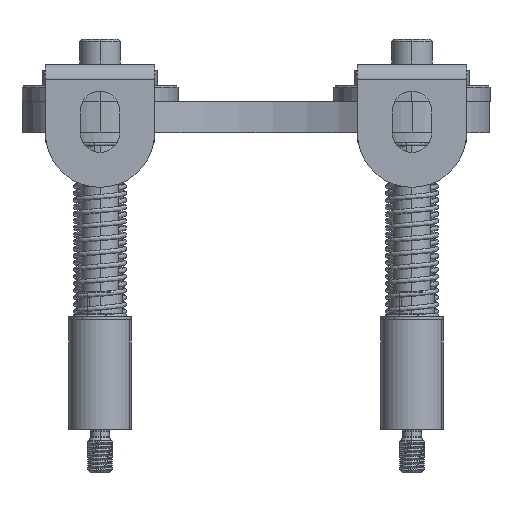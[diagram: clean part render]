
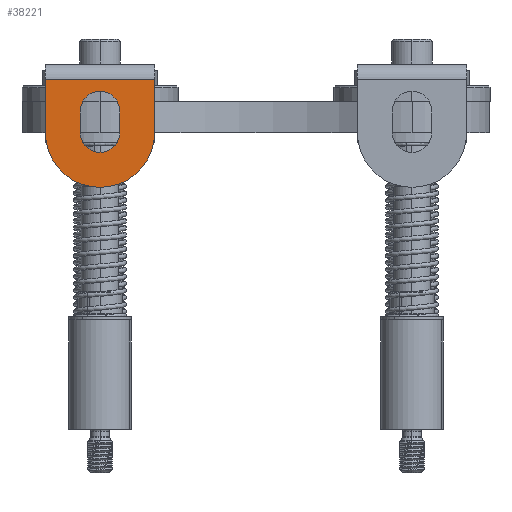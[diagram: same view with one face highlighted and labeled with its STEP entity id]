
A CAD part, left-side view. The second image highlights one B-rep face of the part: STEP entity #38221.
In plain terms, the highlighted planar face has unit normal (-1, 0, 0).
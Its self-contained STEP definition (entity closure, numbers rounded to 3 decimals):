
#1023 = EDGE_CURVE ( 'NONE', #39801, #3194, #34662, .T. ) ;
#1993 = CARTESIAN_POINT ( 'NONE',  ( -201.5, 50., 13.3 ) ) ;
#2133 = VERTEX_POINT ( 'NONE', #2541 ) ;
#2541 = CARTESIAN_POINT ( 'NONE',  ( -201.5, 32.5, 0. ) ) ;
#2630 = VECTOR ( 'NONE', #20570, 1000. ) ;
#2821 = DIRECTION ( 'NONE',  ( -1., 0., 0. ) ) ;
#2845 = AXIS2_PLACEMENT_3D ( 'NONE', #17988, #46175, #6148 ) ;
#3092 = EDGE_CURVE ( 'NONE', #22000, #23403, #44008, .T. ) ;
#3194 = VERTEX_POINT ( 'NONE', #35817 ) ;
#3457 = DIRECTION ( 'NONE',  ( 0., 0., 1. ) ) ;
#4376 = VECTOR ( 'NONE', #12177, 1000. ) ;
#4463 = EDGE_CURVE ( 'NONE', #3194, #8008, #31381, .T. ) ;
#4534 = VECTOR ( 'NONE', #38432, 1000. ) ;
#4985 = LINE ( 'NONE', #48673, #4376 ) ;
#5317 = VECTOR ( 'NONE', #22333, 1000. ) ;
#5601 = DIRECTION ( 'NONE',  ( -1., 0., 0. ) ) ;
#5657 = CARTESIAN_POINT ( 'NONE',  ( -201.5, 43.7, 7. ) ) ;
#6148 = DIRECTION ( 'NONE',  ( 0., 0., 1. ) ) ;
#6353 = ORIENTED_EDGE ( 'NONE', *, *, #35488, .F. ) ;
#6384 = AXIS2_PLACEMENT_3D ( 'NONE', #29783, #5601, #21508 ) ;
#6411 = FACE_BOUND ( 'NONE', #37660, .T. ) ;
#6812 = CARTESIAN_POINT ( 'NONE',  ( -201.5, 56.3, 7. ) ) ;
#8008 = VERTEX_POINT ( 'NONE', #16352 ) ;
#8292 = VERTEX_POINT ( 'NONE', #37650 ) ;
#8668 = EDGE_LOOP ( 'NONE', ( #15537, #40525, #16844, #42687, #38266 ) ) ;
#9653 = PLANE ( 'NONE',  #6384 ) ;
#10381 = CARTESIAN_POINT ( 'NONE',  ( -201.5, 50., 7. ) ) ;
#10797 = DIRECTION ( 'NONE',  ( 0., 0., 1. ) ) ;
#12177 = DIRECTION ( 'NONE',  ( 0., 1., 0. ) ) ;
#13190 = VECTOR ( 'NONE', #26754, 1000. ) ;
#15218 = AXIS2_PLACEMENT_3D ( 'NONE', #30726, #2821, #10797 ) ;
#15537 = ORIENTED_EDGE ( 'NONE', *, *, #35790, .T. ) ;
#16352 = CARTESIAN_POINT ( 'NONE',  ( -201.5, 43.7, 0. ) ) ;
#16466 = EDGE_CURVE ( 'NONE', #23403, #2133, #38520, .T. ) ;
#16576 = LINE ( 'NONE', #52157, #2630 ) ;
#16844 = ORIENTED_EDGE ( 'NONE', *, *, #47890, .T. ) ;
#17988 = CARTESIAN_POINT ( 'NONE',  ( -201.5, 50., 7. ) ) ;
#18653 = AXIS2_PLACEMENT_3D ( 'NONE', #28164, #44033, #3457 ) ;
#19256 = LINE ( 'NONE', #29392, #5317 ) ;
#19378 = CARTESIAN_POINT ( 'NONE',  ( -201.5, 50., 0. ) ) ;
#20570 = DIRECTION ( 'NONE',  ( 0., 0., 1. ) ) ;
#20984 = LINE ( 'NONE', #5657, #4534 ) ;
#21508 = DIRECTION ( 'NONE',  ( 0., 0., 1. ) ) ;
#22000 = VERTEX_POINT ( 'NONE', #48871 ) ;
#22333 = DIRECTION ( 'NONE',  ( 0., 0., -1. ) ) ;
#22580 = DIRECTION ( 'NONE',  ( -1., 0., 0. ) ) ;
#23403 = VERTEX_POINT ( 'NONE', #26399 ) ;
#25419 = ORIENTED_EDGE ( 'NONE', *, *, #30532, .F. ) ;
#26399 = CARTESIAN_POINT ( 'NONE',  ( -201.5, 50., -17.5 ) ) ;
#26754 = DIRECTION ( 'NONE',  ( 0., 0., -1. ) ) ;
#27478 = DIRECTION ( 'NONE',  ( 0., 0., 1. ) ) ;
#28164 = CARTESIAN_POINT ( 'NONE',  ( -201.5, 50., 0. ) ) ;
#28808 = CARTESIAN_POINT ( 'NONE',  ( -201.5, 67.5, 17. ) ) ;
#29392 = CARTESIAN_POINT ( 'NONE',  ( -201.5, 67.5, 0. ) ) ;
#29783 = CARTESIAN_POINT ( 'NONE',  ( -201.5, 50., 0. ) ) ;
#29920 = AXIS2_PLACEMENT_3D ( 'NONE', #10381, #22580, #47600 ) ;
#30532 = EDGE_CURVE ( 'NONE', #8008, #8292, #20984, .T. ) ;
#30726 = CARTESIAN_POINT ( 'NONE',  ( -201.5, 50., 0. ) ) ;
#31150 = ORIENTED_EDGE ( 'NONE', *, *, #1023, .F. ) ;
#31381 = CIRCLE ( 'NONE', #18653, 6.3 ) ;
#34662 = LINE ( 'NONE', #6812, #13190 ) ;
#35463 = VERTEX_POINT ( 'NONE', #45823 ) ;
#35488 = EDGE_CURVE ( 'NONE', #47962, #39801, #49427, .T. ) ;
#35790 = EDGE_CURVE ( 'NONE', #2133, #35463, #16576, .T. ) ;
#35817 = CARTESIAN_POINT ( 'NONE',  ( -201.5, 56.3, 0. ) ) ;
#35940 = EDGE_CURVE ( 'NONE', #8292, #47962, #46225, .T. ) ;
#37386 = AXIS2_PLACEMENT_3D ( 'NONE', #19378, #47577, #27478 ) ;
#37650 = CARTESIAN_POINT ( 'NONE',  ( -201.5, 43.7, 7. ) ) ;
#37660 = EDGE_LOOP ( 'NONE', ( #44138, #25419, #40766, #31150, #6353 ) ) ;
#38221 = ADVANCED_FACE ( 'NONE', ( #6411, #47409 ), #9653, .T. ) ;
#38266 = ORIENTED_EDGE ( 'NONE', *, *, #16466, .T. ) ;
#38432 = DIRECTION ( 'NONE',  ( 0., 0., 1. ) ) ;
#38520 = CIRCLE ( 'NONE', #37386, 17.5 ) ;
#39801 = VERTEX_POINT ( 'NONE', #47654 ) ;
#40130 = EDGE_CURVE ( 'NONE', #35463, #45939, #4985, .T. ) ;
#40525 = ORIENTED_EDGE ( 'NONE', *, *, #40130, .T. ) ;
#40766 = ORIENTED_EDGE ( 'NONE', *, *, #4463, .F. ) ;
#42687 = ORIENTED_EDGE ( 'NONE', *, *, #3092, .T. ) ;
#44008 = CIRCLE ( 'NONE', #15218, 17.5 ) ;
#44033 = DIRECTION ( 'NONE',  ( -1., 0., 0. ) ) ;
#44138 = ORIENTED_EDGE ( 'NONE', *, *, #35940, .F. ) ;
#45823 = CARTESIAN_POINT ( 'NONE',  ( -201.5, 32.5, 17. ) ) ;
#45939 = VERTEX_POINT ( 'NONE', #28808 ) ;
#46175 = DIRECTION ( 'NONE',  ( -1., 0., 0. ) ) ;
#46225 = CIRCLE ( 'NONE', #29920, 6.3 ) ;
#47409 = FACE_OUTER_BOUND ( 'NONE', #8668, .T. ) ;
#47577 = DIRECTION ( 'NONE',  ( -1., 0., 0. ) ) ;
#47600 = DIRECTION ( 'NONE',  ( 0., 0., 1. ) ) ;
#47654 = CARTESIAN_POINT ( 'NONE',  ( -201.5, 56.3, 7. ) ) ;
#47890 = EDGE_CURVE ( 'NONE', #45939, #22000, #19256, .T. ) ;
#47962 = VERTEX_POINT ( 'NONE', #1993 ) ;
#48673 = CARTESIAN_POINT ( 'NONE',  ( -201.5, 50., 17. ) ) ;
#48871 = CARTESIAN_POINT ( 'NONE',  ( -201.5, 67.5, 0. ) ) ;
#49427 = CIRCLE ( 'NONE', #2845, 6.3 ) ;
#52157 = CARTESIAN_POINT ( 'NONE',  ( -201.5, 32.5, 20. ) ) ;
